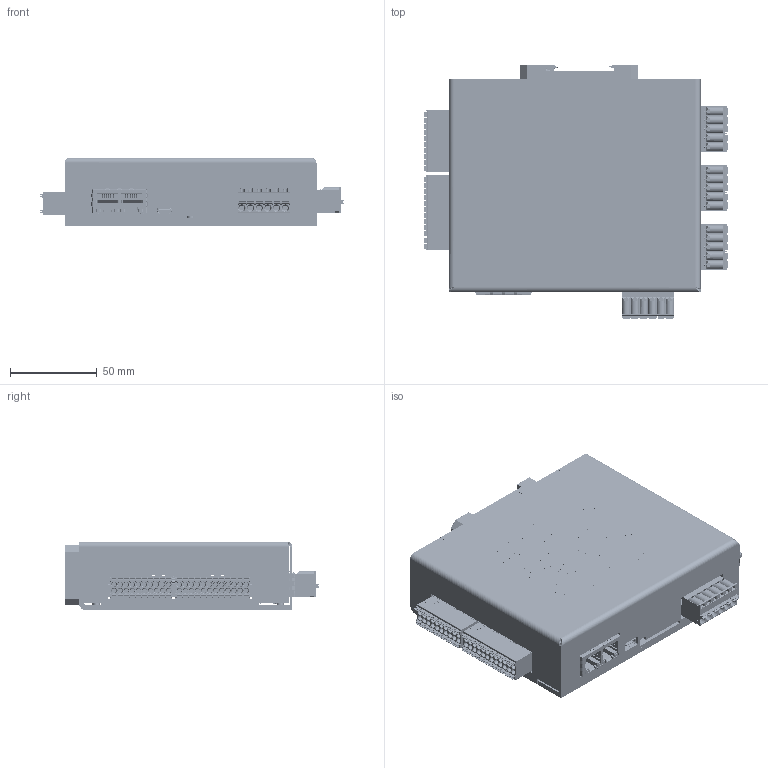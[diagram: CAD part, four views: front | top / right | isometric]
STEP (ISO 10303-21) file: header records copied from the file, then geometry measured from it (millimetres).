
FILE_DESCRIPTION (( 'STEP AP214' ), '1' );
FILE_NAME ('SMD2204Lxx.STEP', '2025-04-28T17:04:03', ( '' ), ( '' ), 'SwSTEP 2.0', 'SolidWorks 2019', '' );
FILE_SCHEMA (( 'AUTOMOTIVE_DESIGN' ));
Length unit declared in the file: millimetre
Products named in the file (18): 5US4C14MF-116G0BUH41; LABPA-022x008-S1_SMD2204; thru-hole standoff_pmm_PEM SO-M3-6 ZI--N; pan head cross recess screw_iso_ISO 7045 - M3 x 4 - Z - 4N; fkc_2.5-5-st-5.08; countersunk flat head cross recess screw_din_DIN EN ISO 7046-1 - M4 x 10 - Z - 10N; RJ45X2-WE-7499021125_RJ45X2-WE-7499021125-1; LABPA-080x070-S2_SMD2204; HEASMD2204APAB; SMD2204_L_V10; pxc_1790205_02_DFMC-1-5-12-ST-3-5_3D; SMD2204Lxx; SMD2204_L_V10_BOARD; COVSMD2204LI-J-ALG; FIX-DIN6835; DFMC_1.5-10-ST-3.5; HEASMD2204APAB_PEM; fkc_2.5-6-st
Assembly tree (27 placements, depth 3):
  SMD2204Lxx
    SMD2204_L_V10
      RJ45X2-WE-7499021125_RJ45X2-WE-7499021125-1
    HEASMD2204APAB_PEM
      HEASMD2204APAB
      thru-hole standoff_pmm_PEM SO-M3-6 ZI--N  x5
    pan head cross recess screw_iso_ISO 7045 - M3 x 4 - Z - 4N  x4
    COVSMD2204LI-J-ALG
    5US4C14MF-116G0BUH41
    LABPA-080x070-S2_SMD2204
    fkc_2.5-6-st
    fkc_2.5-5-st-5.08  x3
    pxc_1790205_02_DFMC-1-5-12-ST-3-5_3D
    DFMC_1.5-10-ST-3.5
    FIX-DIN6835
    countersunk flat head cross recess screw_din_DIN EN ISO 7046-1 - M4 x 10 - Z - 10N  x3
    LABPA-022x008-S1_SMD2204
  SMD2204_L_V10_BOARD
Bounding box: 175.31 x 146.47 x 39.53 mm (x, y, z)
Volume: 168819 mm3; surface area: 168666.3 mm2
Topology: 30 solids, 32 shells, 16157 faces, 43751 edges, 28392 vertices
Faces by surface type: plane 9750, cylinder 3124, bspline 2642, cone 499, torus 134, sphere 8
Entity records: 704423 total; most frequent: CARTESIAN_POINT 246406, ORIENTED_EDGE 80670, DIRECTION 63255, EDGE_CURVE 40339, LINE 28097, VECTOR 28097, VERTEX_POINT 26302, AXIS2_PLACEMENT_3D 17579
